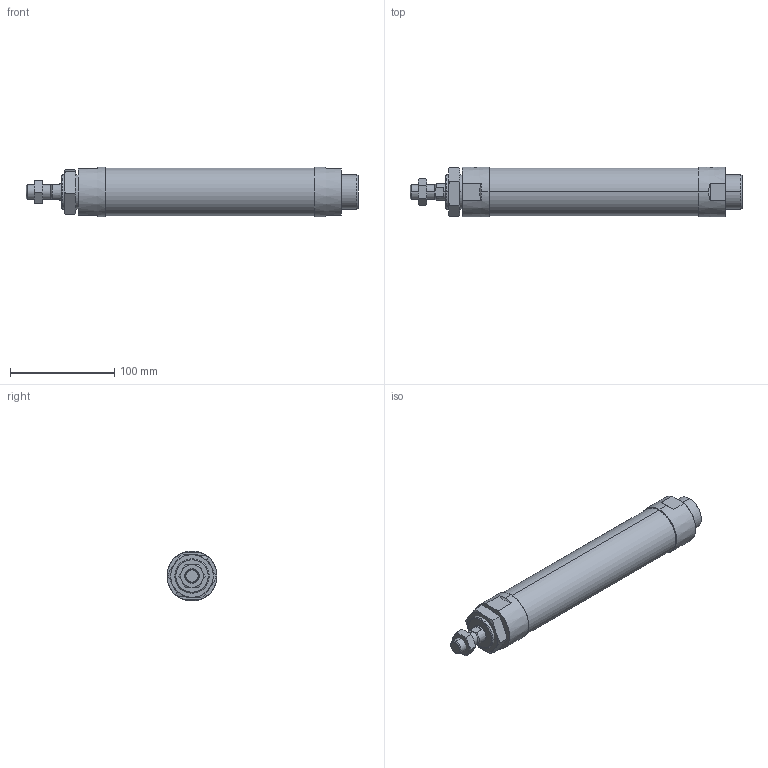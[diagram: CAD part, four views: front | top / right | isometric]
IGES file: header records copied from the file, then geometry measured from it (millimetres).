
Start section: SolidWorks IGES file using analytic representation for surfaces
Global section: file name: C:\Users\Toshiba\Desktop\J#2-40-150-N.IGS; native system: SolidWorks 2014; preprocessor: SolidWorks 2014; author: Toshiba; date: 160308.160248; units: millimetre
Bounding box: 319 x 48 x 48 mm (x, y, z)
Surface area: 52113.1 mm2 (no closed solid volume)
Topology: 0 solids, 0 shells, 94 faces, 1846 edges, 1842 vertices
Faces by surface type: bspline 57, revolution 37
